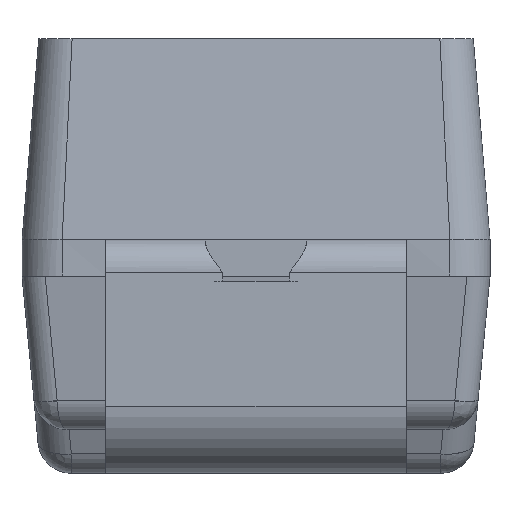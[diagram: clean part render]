
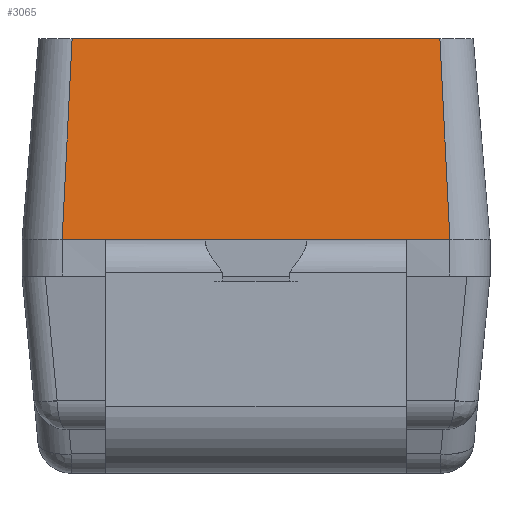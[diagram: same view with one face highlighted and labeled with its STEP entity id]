
A CAD part, left-side view. The second image highlights one B-rep face of the part: STEP entity #3065.
In plain terms, the highlighted planar face has unit normal (-0.997, 0, 0.083).
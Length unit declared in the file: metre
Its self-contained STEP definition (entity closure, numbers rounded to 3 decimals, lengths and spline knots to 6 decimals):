
#245=B_SPLINE_CURVE_WITH_KNOTS('',3,(#4728,#4729,#4730,#4731),
 .UNSPECIFIED.,.F.,.F.,(4,4),(0.,1.),.UNSPECIFIED.);
#246=B_SPLINE_CURVE_WITH_KNOTS('',3,(#4735,#4736,#4737,#4738),
 .UNSPECIFIED.,.F.,.F.,(4,4),(0.,1.),.UNSPECIFIED.);
#507=ORIENTED_EDGE('',*,*,#1386,.T.);
#508=ORIENTED_EDGE('',*,*,#1387,.F.);
#509=ORIENTED_EDGE('',*,*,#1388,.F.);
#510=ORIENTED_EDGE('',*,*,#1310,.T.);
#511=ORIENTED_EDGE('',*,*,#1389,.T.);
#512=ORIENTED_EDGE('',*,*,#1364,.T.);
#1310=EDGE_CURVE('',#1769,#1767,#2040,.F.);
#1364=EDGE_CURVE('',#1813,#1814,#2080,.F.);
#1386=EDGE_CURVE('',#1814,#1823,#245,.T.);
#1387=EDGE_CURVE('',#1824,#1823,#2087,.T.);
#1388=EDGE_CURVE('',#1769,#1824,#246,.F.);
#1389=EDGE_CURVE('',#1767,#1813,#2088,.F.);
#1767=VERTEX_POINT('',#4498);
#1769=VERTEX_POINT('',#4501);
#1813=VERTEX_POINT('',#4622);
#1814=VERTEX_POINT('',#4623);
#1823=VERTEX_POINT('',#4727);
#1824=VERTEX_POINT('',#4734);
#2040=LINE('',#4500,#2321);
#2080=LINE('',#4621,#2361);
#2087=LINE('',#4733,#2368);
#2088=LINE('',#4739,#2369);
#2321=VECTOR('',#3533,1.);
#2361=VECTOR('',#3615,1.);
#2368=VECTOR('',#3642,1.);
#2369=VECTOR('',#3643,1.);
#2600=EDGE_LOOP('',(#507,#508,#509,#510,#511,#512));
#2787=FACE_BOUND('',#2600,.T.);
#2961=PLANE('',#3294);
#3065=ADVANCED_FACE('',(#2787),#2961,.T.);
#3294=AXIS2_PLACEMENT_3D('',#4732,#3640,#3641);
#3533=DIRECTION('',(0.,1.,0.));
#3615=DIRECTION('',(0.,1.,0.));
#3640=DIRECTION('',(-0.997,0.,0.083));
#3641=DIRECTION('',(0.083,0.,0.997));
#3642=DIRECTION('',(0.,-1.,0.));
#3643=DIRECTION('',(0.,1.,0.));
#4498=CARTESIAN_POINT('',(-0.001,0.00045,0.00011));
#4500=CARTESIAN_POINT('',(-0.001,0.,0.00011));
#4501=CARTESIAN_POINT('',(-0.001,0.00058,0.00011));
#4621=CARTESIAN_POINT('',(-0.001,0.,0.00011));
#4622=CARTESIAN_POINT('',(-0.001,-0.00045,0.00011));
#4623=CARTESIAN_POINT('',(-0.001,-0.00058,0.00011));
#4727=CARTESIAN_POINT('',(-0.00095,-0.00055,0.00071));
#4728=CARTESIAN_POINT('',(-0.001,-0.00058,0.00011));
#4729=CARTESIAN_POINT('',(-0.000983,-0.00057,0.00031));
#4730=CARTESIAN_POINT('',(-0.000967,-0.00056,0.00051));
#4731=CARTESIAN_POINT('',(-0.00095,-0.00055,0.00071));
#4732=CARTESIAN_POINT('',(-0.001002,0.,0.000084));
#4733=CARTESIAN_POINT('',(-0.00095,0.,0.00071));
#4734=CARTESIAN_POINT('',(-0.00095,0.00055,0.00071));
#4735=CARTESIAN_POINT('',(-0.00095,0.00055,0.00071));
#4736=CARTESIAN_POINT('',(-0.000967,0.00056,0.00051));
#4737=CARTESIAN_POINT('',(-0.000983,0.00057,0.00031));
#4738=CARTESIAN_POINT('',(-0.001,0.00058,0.00011));
#4739=CARTESIAN_POINT('',(-0.001,0.,0.00011));
